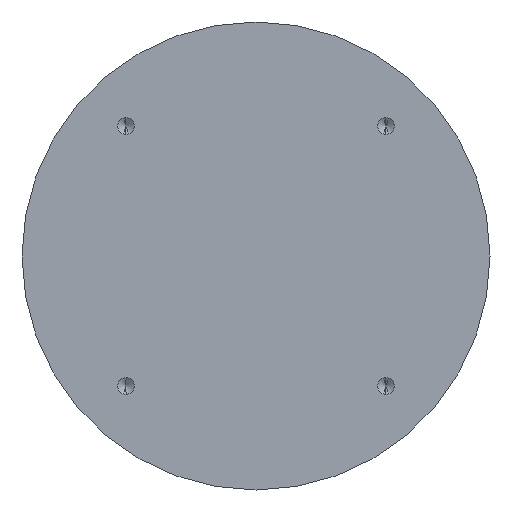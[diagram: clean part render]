
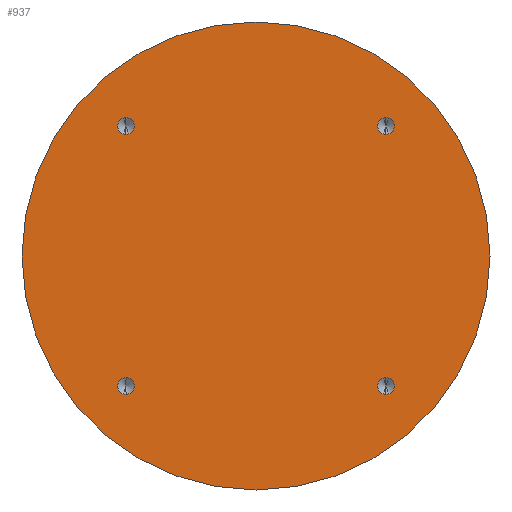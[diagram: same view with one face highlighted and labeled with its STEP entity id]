
A CAD part, front view. The second image highlights one B-rep face of the part: STEP entity #937.
In plain terms, the highlighted planar face has unit normal (0, -1, 0).
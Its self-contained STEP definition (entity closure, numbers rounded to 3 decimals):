
#24 = CARTESIAN_POINT ( 'NONE',  ( 22.5, 0., 45. ) ) ;
#32 = VERTEX_POINT ( 'NONE', #799 ) ;
#60 = CIRCLE ( 'NONE', #927, 22.5 ) ;
#114 = EDGE_CURVE ( 'NONE', #1383, #2685, #3053, .T. ) ;
#170 = DIRECTION ( 'NONE',  ( 0., 0., -1. ) ) ;
#180 = AXIS2_PLACEMENT_3D ( 'NONE', #606, #679, #2321 ) ;
#208 = VERTEX_POINT ( 'NONE', #24 ) ;
#271 = DIRECTION ( 'NONE',  ( 0., -1., 0. ) ) ;
#280 = CARTESIAN_POINT ( 'NONE',  ( 35., 0., 9.2 ) ) ;
#295 = EDGE_CURVE ( 'NONE', #668, #3183, #2750, .T. ) ;
#353 = AXIS2_PLACEMENT_3D ( 'NONE', #1264, #2312, #170 ) ;
#405 = DIRECTION ( 'NONE',  ( 0., 0., -1. ) ) ;
#407 = CARTESIAN_POINT ( 'NONE',  ( 35., 0., 35. ) ) ;
#430 = AXIS2_PLACEMENT_3D ( 'NONE', #2478, #2710, #2174 ) ;
#432 = VERTEX_POINT ( 'NONE', #3107 ) ;
#454 = FACE_BOUND ( 'NONE', #2016, .T. ) ;
#494 = CARTESIAN_POINT ( 'NONE',  ( 22.5, 0., 0. ) ) ;
#606 = CARTESIAN_POINT ( 'NONE',  ( 10., 0., 10. ) ) ;
#612 = DIRECTION ( 'NONE',  ( 0., 0., -1. ) ) ;
#668 = VERTEX_POINT ( 'NONE', #2217 ) ;
#679 = DIRECTION ( 'NONE',  ( 0., -1., 0. ) ) ;
#693 = AXIS2_PLACEMENT_3D ( 'NONE', #407, #1964, #1217 ) ;
#696 = EDGE_CURVE ( 'NONE', #1905, #32, #3491, .T. ) ;
#724 = DIRECTION ( 'NONE',  ( 0., 0., -1. ) ) ;
#784 = AXIS2_PLACEMENT_3D ( 'NONE', #3490, #2896, #1577 ) ;
#799 = CARTESIAN_POINT ( 'NONE',  ( 10., 0., 35.8 ) ) ;
#830 = EDGE_LOOP ( 'NONE', ( #1353, #3340 ) ) ;
#843 = CARTESIAN_POINT ( 'NONE',  ( 10., 0., 35. ) ) ;
#878 = ORIENTED_EDGE ( 'NONE', *, *, #696, .F. ) ;
#893 = ORIENTED_EDGE ( 'NONE', *, *, #2056, .T. ) ;
#927 = AXIS2_PLACEMENT_3D ( 'NONE', #2294, #1245, #2619 ) ;
#937 = ADVANCED_FACE ( 'NONE', ( #2115, #2664, #2949, #454, #3211 ), #1853, .T. ) ;
#1057 = CARTESIAN_POINT ( 'NONE',  ( 10., 0., 9.2 ) ) ;
#1091 = CIRCLE ( 'NONE', #693, 0.8 ) ;
#1095 = EDGE_LOOP ( 'NONE', ( #878, #3076 ) ) ;
#1128 = VERTEX_POINT ( 'NONE', #1721 ) ;
#1139 = AXIS2_PLACEMENT_3D ( 'NONE', #843, #1674, #612 ) ;
#1175 = DIRECTION ( 'NONE',  ( 0., -1., 0. ) ) ;
#1196 = EDGE_CURVE ( 'NONE', #3183, #668, #2459, .T. ) ;
#1217 = DIRECTION ( 'NONE',  ( 0., 0., -1. ) ) ;
#1245 = DIRECTION ( 'NONE',  ( 0., -1., 0. ) ) ;
#1264 = CARTESIAN_POINT ( 'NONE',  ( 22.5, 0., 22.5 ) ) ;
#1292 = EDGE_CURVE ( 'NONE', #432, #1128, #2572, .T. ) ;
#1303 = ORIENTED_EDGE ( 'NONE', *, *, #3519, .F. ) ;
#1353 = ORIENTED_EDGE ( 'NONE', *, *, #1292, .F. ) ;
#1365 = DIRECTION ( 'NONE',  ( 0., 0., -1. ) ) ;
#1383 = VERTEX_POINT ( 'NONE', #280 ) ;
#1436 = ORIENTED_EDGE ( 'NONE', *, *, #2045, .T. ) ;
#1474 = EDGE_LOOP ( 'NONE', ( #1436, #893 ) ) ;
#1524 = CARTESIAN_POINT ( 'NONE',  ( 35., 0., 10.8 ) ) ;
#1577 = DIRECTION ( 'NONE',  ( 0., 0., -1. ) ) ;
#1581 = CARTESIAN_POINT ( 'NONE',  ( 22.5, 0., 22.5 ) ) ;
#1589 = EDGE_CURVE ( 'NONE', #1128, #432, #1091, .T. ) ;
#1621 = CIRCLE ( 'NONE', #2873, 0.8 ) ;
#1636 = CARTESIAN_POINT ( 'NONE',  ( 10., 0., 35. ) ) ;
#1674 = DIRECTION ( 'NONE',  ( 0., -1., 0. ) ) ;
#1707 = ORIENTED_EDGE ( 'NONE', *, *, #295, .F. ) ;
#1721 = CARTESIAN_POINT ( 'NONE',  ( 35., 0., 35.8 ) ) ;
#1778 = VERTEX_POINT ( 'NONE', #494 ) ;
#1853 = PLANE ( 'NONE',  #2114 ) ;
#1900 = CIRCLE ( 'NONE', #353, 22.5 ) ;
#1905 = VERTEX_POINT ( 'NONE', #3024 ) ;
#1957 = AXIS2_PLACEMENT_3D ( 'NONE', #2591, #1175, #405 ) ;
#1964 = DIRECTION ( 'NONE',  ( 0., -1., 0. ) ) ;
#2016 = EDGE_LOOP ( 'NONE', ( #3295, #1707 ) ) ;
#2045 = EDGE_CURVE ( 'NONE', #1778, #208, #60, .T. ) ;
#2056 = EDGE_CURVE ( 'NONE', #208, #1778, #1900, .T. ) ;
#2114 = AXIS2_PLACEMENT_3D ( 'NONE', #1581, #2617, #724 ) ;
#2115 = FACE_BOUND ( 'NONE', #2556, .T. ) ;
#2174 = DIRECTION ( 'NONE',  ( 0., 0., -1. ) ) ;
#2217 = CARTESIAN_POINT ( 'NONE',  ( 10., 0., 10.8 ) ) ;
#2294 = CARTESIAN_POINT ( 'NONE',  ( 22.5, 0., 22.5 ) ) ;
#2312 = DIRECTION ( 'NONE',  ( 0., -1., 0. ) ) ;
#2321 = DIRECTION ( 'NONE',  ( 0., 0., -1. ) ) ;
#2413 = DIRECTION ( 'NONE',  ( 0., -1., 0. ) ) ;
#2459 = CIRCLE ( 'NONE', #180, 0.8 ) ;
#2478 = CARTESIAN_POINT ( 'NONE',  ( 35., 0., 10. ) ) ;
#2556 = EDGE_LOOP ( 'NONE', ( #2703, #1303 ) ) ;
#2572 = CIRCLE ( 'NONE', #2856, 0.8 ) ;
#2591 = CARTESIAN_POINT ( 'NONE',  ( 10., 0., 10. ) ) ;
#2617 = DIRECTION ( 'NONE',  ( 0., -1., 0. ) ) ;
#2619 = DIRECTION ( 'NONE',  ( 0., 0., -1. ) ) ;
#2664 = FACE_BOUND ( 'NONE', #1095, .T. ) ;
#2685 = VERTEX_POINT ( 'NONE', #1524 ) ;
#2703 = ORIENTED_EDGE ( 'NONE', *, *, #114, .F. ) ;
#2710 = DIRECTION ( 'NONE',  ( 0., -1., 0. ) ) ;
#2724 = EDGE_CURVE ( 'NONE', #32, #1905, #1621, .T. ) ;
#2750 = CIRCLE ( 'NONE', #1957, 0.8 ) ;
#2856 = AXIS2_PLACEMENT_3D ( 'NONE', #2947, #2413, #2881 ) ;
#2873 = AXIS2_PLACEMENT_3D ( 'NONE', #1636, #271, #1365 ) ;
#2881 = DIRECTION ( 'NONE',  ( 0., 0., -1. ) ) ;
#2896 = DIRECTION ( 'NONE',  ( 0., -1., 0. ) ) ;
#2947 = CARTESIAN_POINT ( 'NONE',  ( 35., 0., 35. ) ) ;
#2949 = FACE_BOUND ( 'NONE', #830, .T. ) ;
#2954 = CIRCLE ( 'NONE', #784, 0.8 ) ;
#3024 = CARTESIAN_POINT ( 'NONE',  ( 10., 0., 34.2 ) ) ;
#3053 = CIRCLE ( 'NONE', #430, 0.8 ) ;
#3076 = ORIENTED_EDGE ( 'NONE', *, *, #2724, .F. ) ;
#3107 = CARTESIAN_POINT ( 'NONE',  ( 35., 0., 34.2 ) ) ;
#3183 = VERTEX_POINT ( 'NONE', #1057 ) ;
#3211 = FACE_OUTER_BOUND ( 'NONE', #1474, .T. ) ;
#3295 = ORIENTED_EDGE ( 'NONE', *, *, #1196, .F. ) ;
#3340 = ORIENTED_EDGE ( 'NONE', *, *, #1589, .F. ) ;
#3490 = CARTESIAN_POINT ( 'NONE',  ( 35., 0., 10. ) ) ;
#3491 = CIRCLE ( 'NONE', #1139, 0.8 ) ;
#3519 = EDGE_CURVE ( 'NONE', #2685, #1383, #2954, .T. ) ;
